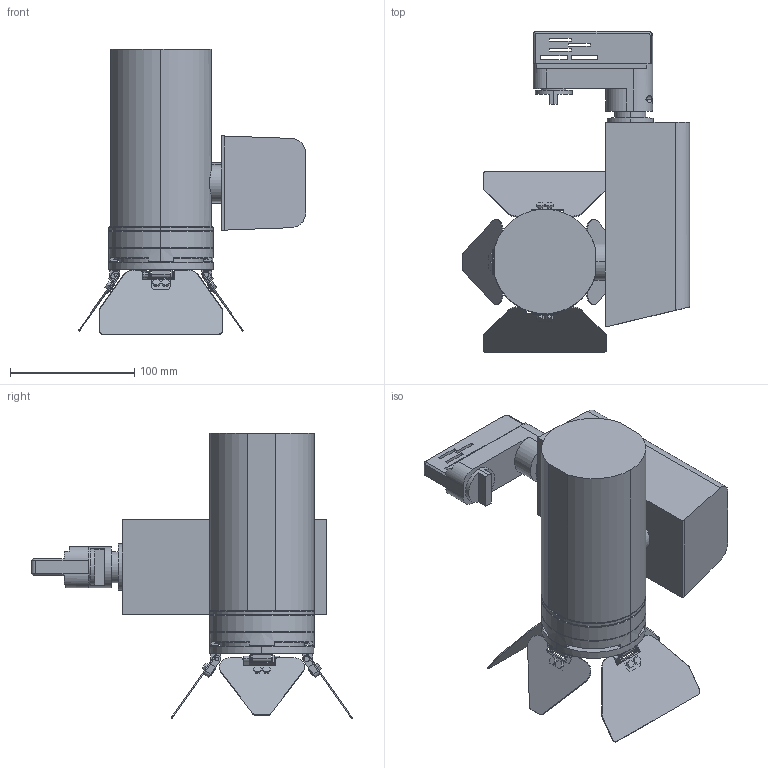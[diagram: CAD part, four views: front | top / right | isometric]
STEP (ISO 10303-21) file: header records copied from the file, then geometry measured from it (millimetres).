
FILE_DESCRIPTION (( 'STEP AP203' ), '1' );
FILE_NAME ('P1X (Track-W_Sidecar)_Hanging_10-06-2026.STEP', '2026-06-10T04:22:06', ( '' ), ( '' ), 'SwSTEP 2.0', 'SolidWorks 2014', '' );
FILE_SCHEMA (( 'CONFIG_CONTROL_DESIGN' ));
Length unit declared in the file: millimetre
Products named in the file (5): P1X (Track-W_Sidecar)_Hanging_10-06-2026; P1X - Light Body_W; ONE TRACK Track Adapter_W; Sidecar_Yoke+PSU_(Track-W); 2.5 inch 4-leaf Barndoor_W
Assembly tree (4 placements, depth 2):
  P1X (Track-W_Sidecar)_Hanging_10-06-2026
    Sidecar_Yoke+PSU_(Track-W)
    P1X - Light Body_W
    2.5 inch 4-leaf Barndoor_W
    ONE TRACK Track Adapter_W
Bounding box: 182.76 x 258.06 x 229.38 mm (x, y, z)
Volume: 1810118.7 mm3; surface area: 184479.2 mm2
Topology: 7 solids, 15 shells, 572 faces, 1441 edges, 929 vertices
Faces by surface type: plane 358, cylinder 170, cone 38, bspline 4, torus 2
Entity records: 18258 total; most frequent: CARTESIAN_POINT 3728, DIRECTION 2952, ORIENTED_EDGE 2882, EDGE_CURVE 1441, AXIS2_PLACEMENT_3D 993, VECTOR 966, LINE 966, VERTEX_POINT 929
